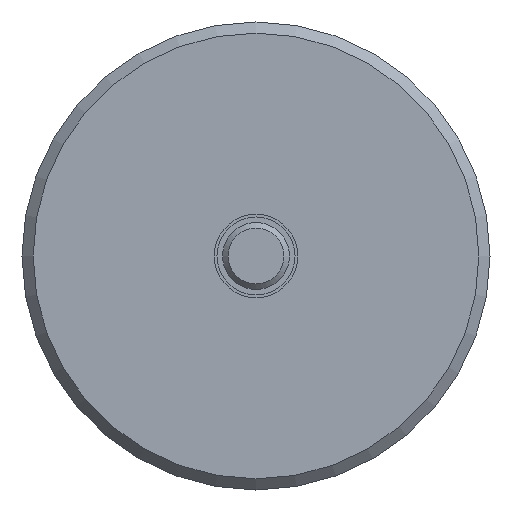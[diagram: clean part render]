
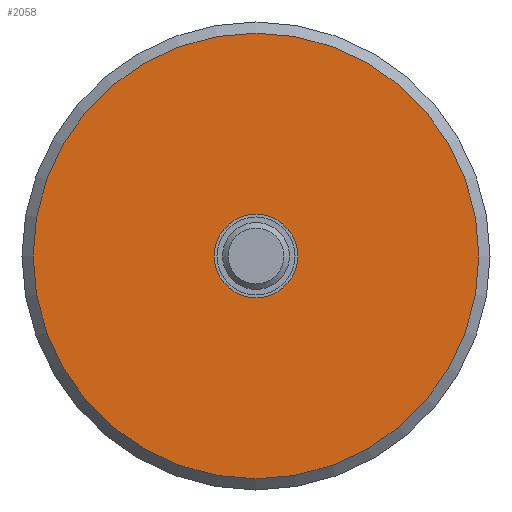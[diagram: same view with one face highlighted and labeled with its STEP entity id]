
A CAD part, left-side view. The second image highlights one B-rep face of the part: STEP entity #2058.
In plain terms, the highlighted planar face has unit normal (-1, 0, 0).
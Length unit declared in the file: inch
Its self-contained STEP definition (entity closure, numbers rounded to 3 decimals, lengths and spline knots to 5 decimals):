
#85=FACE_BOUND('',#479,.T.);
#356=FACE_OUTER_BOUND('',#478,.T.);
#478=EDGE_LOOP('',(#1366));
#479=EDGE_LOOP('',(#1367,#1368));
#629=CIRCLE('',#2227,0.14764);
#630=CIRCLE('',#2228,0.14764);
#633=CIRCLE('',#2233,0.7874);
#793=VERTEX_POINT('',#3170);
#794=VERTEX_POINT('',#3171);
#797=VERTEX_POINT('',#3182);
#1016=EDGE_CURVE('',#793,#794,#629,.T.);
#1017=EDGE_CURVE('',#794,#793,#630,.T.);
#1023=EDGE_CURVE('',#797,#797,#633,.T.);
#1366=ORIENTED_EDGE('',*,*,#1023,.F.);
#1367=ORIENTED_EDGE('',*,*,#1016,.T.);
#1368=ORIENTED_EDGE('',*,*,#1017,.T.);
#1874=PLANE('',#2237);
#2058=ADVANCED_FACE('',(#356,#85),#1874,.F.);
#2227=AXIS2_PLACEMENT_3D('',#3172,#2554,#2555);
#2228=AXIS2_PLACEMENT_3D('',#3173,#2556,#2557);
#2233=AXIS2_PLACEMENT_3D('',#3184,#2569,#2570);
#2237=AXIS2_PLACEMENT_3D('',#3191,#2578,#2579);
#2554=DIRECTION('center_axis',(1.,0.,0.));
#2555=DIRECTION('ref_axis',(0.,-1.,0.));
#2556=DIRECTION('center_axis',(1.,0.,0.));
#2557=DIRECTION('ref_axis',(0.,-1.,0.));
#2569=DIRECTION('center_axis',(1.,0.,0.));
#2570=DIRECTION('ref_axis',(0.,-1.,0.));
#2578=DIRECTION('center_axis',(1.,0.,0.));
#2579=DIRECTION('ref_axis',(0.,0.,1.));
#3170=CARTESIAN_POINT('',(-2.33762,-0.04634,0.80475));
#3171=CARTESIAN_POINT('',(-2.33762,0.24894,0.80475));
#3172=CARTESIAN_POINT('Origin',(-2.33762,0.1013,0.80475));
#3173=CARTESIAN_POINT('Origin',(-2.33762,0.1013,0.80475));
#3182=CARTESIAN_POINT('',(-2.33762,0.8887,0.80475));
#3184=CARTESIAN_POINT('Origin',(-2.33762,0.1013,0.80475));
#3191=CARTESIAN_POINT('Origin',(-2.33762,0.1013,0.80475));
